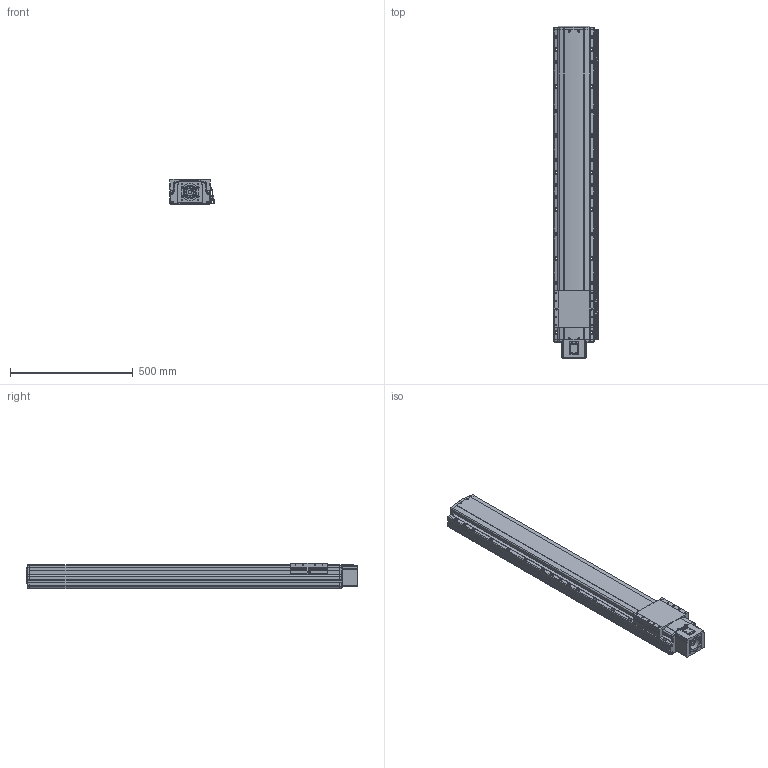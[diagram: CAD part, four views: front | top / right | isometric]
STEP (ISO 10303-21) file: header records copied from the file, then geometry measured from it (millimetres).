
FILE_DESCRIPTION(('STEP AP214'),'1');
FILE_NAME('Z:/Web/3D/PSA165/STP/PSA165-1000 (3D)/PSA165ㅁㅁ-1000S+3SR.stp','2014-06-24T10:24:18',(' '),(' '),'Spatial InterOp 3D',' ',' ');
FILE_SCHEMA(('automotive_design'));
Length unit declared in the file: millimetre
Products named in the file (85): 스크루 : Round - M4.0 x 12.0; RRCV-PA160; BASE; 스크루 : Round - M4.0 x 10.0; RN15; Screw 20; SLIDE; FRCV; 스크루 : Socket - M6.0 x 25.0; MTHZ-SAN150-80A; SSFX-SAN65; CPLCV-SAN65; 스크루 : Round - M3.0 x 6.0; SDWA47C(2); SDWA47C(3-1); SDWA47C(3); SDWA47C(1); SDWA47C(4); SDWA47C(5); M3.0 x 6.0; SRL-16x17-360L; SGD-SAN150; EE-SX674; SBK-SX674-352; BHCS M4.0 x 10.0
Bounding box: 181 x 1349.8 x 104 mm (x, y, z)
Volume: 18180042.8 mm3; surface area: 1336289 mm2
Topology: 85 solids, 85 shells, 3597 faces, 9567 edges, 6169 vertices
Faces by surface type: plane 1763, cylinder 1304, cone 401, sphere 70, bspline 35, torus 24
Entity records: 147025 total; most frequent: CARTESIAN_POINT 25240, DIRECTION 19871, ORIENTED_EDGE 18790, EDGE_CURVE 9395, AXIS2_PLACEMENT_3D 7130, VERTEX_POINT 6169, LINE 5611, VECTOR 5611
